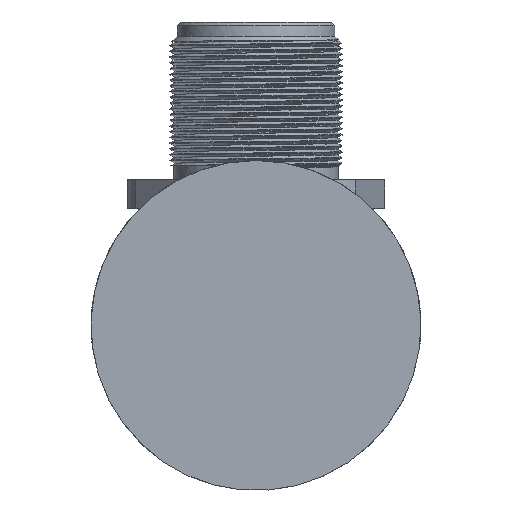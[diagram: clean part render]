
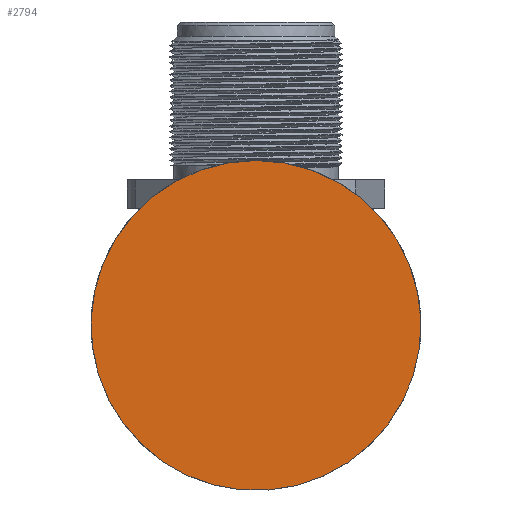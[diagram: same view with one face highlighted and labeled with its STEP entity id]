
A CAD part, left-side view. The second image highlights one B-rep face of the part: STEP entity #2794.
In plain terms, the highlighted planar face has unit normal (-1, 0, 0).
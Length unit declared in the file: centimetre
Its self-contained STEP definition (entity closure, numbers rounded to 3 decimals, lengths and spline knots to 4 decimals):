
#737=PLANE('',#2999);
#811=CIRCLE('',#2997,1.15);
#979=VERTEX_POINT('',#3815);
#1287=EDGE_CURVE('',#979,#979,#811,.T.);
#1773=ORIENTED_EDGE('',*,*,#1287,.F.);
#2353=EDGE_LOOP('',(#1773));
#2579=FACE_BOUND('',#2353,.T.);
#2794=ADVANCED_FACE('',(#2579),#737,.T.);
#2997=AXIS2_PLACEMENT_3D('',#3814,#15043,#15044);
#2999=AXIS2_PLACEMENT_3D('',#3847,#15053,$);
#3814=CARTESIAN_POINT('',(0.1,0.,0.));
#3815=CARTESIAN_POINT('',(0.1,0.,1.15));
#3847=CARTESIAN_POINT('',(0.1,0.,0.));
#15043=DIRECTION('',(1.,0.,0.));
#15044=DIRECTION('',(0.,0.,-1.15));
#15053=DIRECTION('',(-1.,0.,0.));
